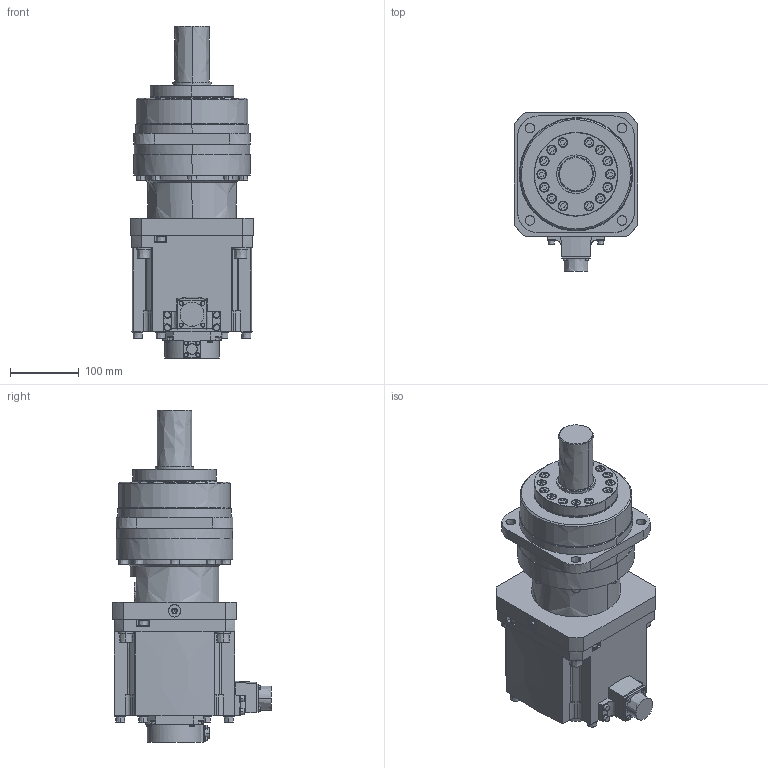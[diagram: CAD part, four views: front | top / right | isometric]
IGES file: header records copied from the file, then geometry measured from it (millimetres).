
Start section:  PTC IGES file: hg-sr502g7_0511_.igs
Global section: file name: hg-sr502g7_0511_.igs; native system: Creo Parametric by PTC Inc.; preprocessor: 2016380; author: ZS28065; organization: Unknown; date: 20180301.163721; units: millimetre
Bounding box: 180 x 230.85 x 483.5 mm (x, y, z)
Volume: 8748909.1 mm3; surface area: 356666.9 mm2
Topology: 1 solids, 1 shells, 784 faces, 1886 edges, 1249 vertices
Faces by surface type: bspline 784
